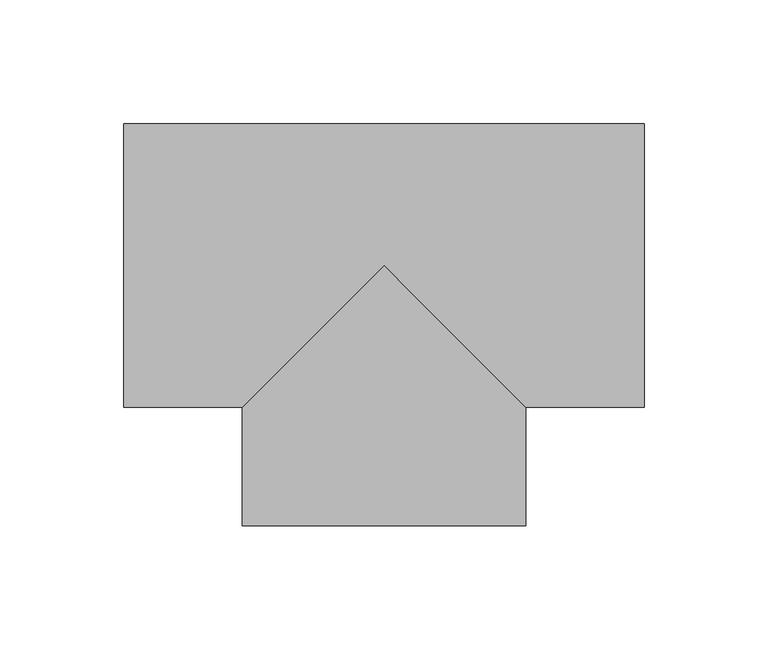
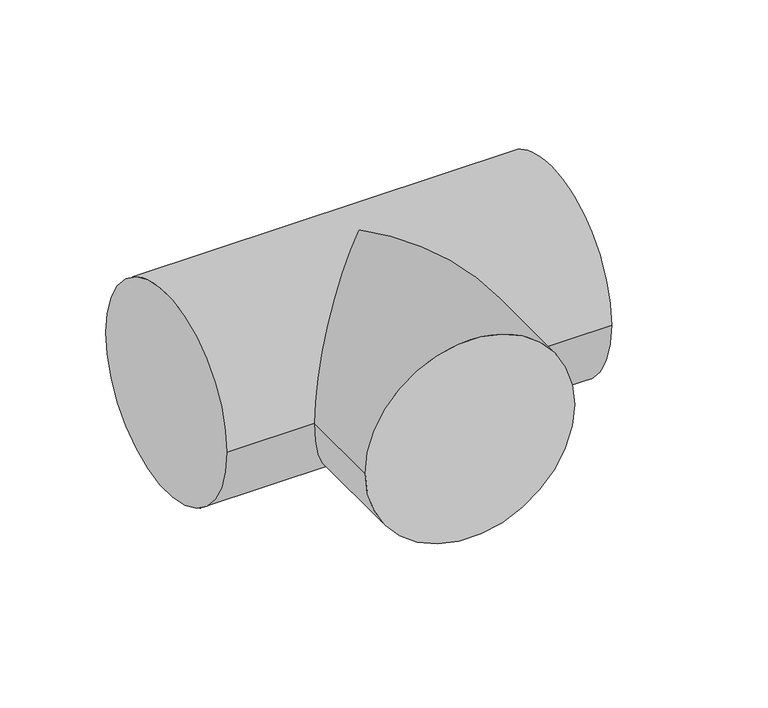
"""IFC4 building model written with IfcOpenShell, lengths in millimetres: pipe fitting geometry, T 形三通 - 常规 : 标准."""

from ifc_helpers import new_model, si_unit, frame, origin, place, context, project, spatial, circle_curve, ellipse_curve, source, transform, mapped, element, save
from ifc_brep_helpers import plane_surface, cylinder_surface, advanced_brep


def pipe_fitting_a8da37af(model_context):
    return source(origin(), model_context, "Body", "AdvancedBrep", [
        advanced_brep(
        [(-105.0, -57.15, 0.0), (-105.0, 57.15, 0.0), (105.0, -57.15, 0.0), (105.0, 57.15, 0.0), (-57.15, -57.15, 0.0), (0.0, 0.0, 57.15), (57.15, -57.15, 0.0), (0.0, 0.0, -57.15), (-57.15, -105.0, 0.0), (57.15, -105.0, 0.0)],
        [
            (0, 1, circle_curve(frame((-105.0, 0.0, 0.0), z_axis=(-1.0, 0.0, 0.0), x_axis=(0.0, 1.0, 0.0)), 57.15)),
            (1, 0, circle_curve(frame((-105.0, 0.0, 0.0), z_axis=(-1.0, 0.0, 0.0), x_axis=(0.0, 1.0, 0.0)), 57.15)),
            (2, 3, circle_curve(frame((105.0, 0.0, 0.0), z_axis=(1.0, 0.0, 0.0), x_axis=(0.0, 1.0, 0.0)), 57.15)),
            (3, 2, circle_curve(frame((105.0, 0.0, 0.0), z_axis=(1.0, 0.0, 0.0), x_axis=(0.0, 1.0, 0.0)), 57.15)),
            (0, 4),
            (4, 5, ellipse_curve(frame((0.0, 0.0, 0.0), z_axis=(-0.707106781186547, 0.7071067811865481, 0.0), x_axis=(-0.707106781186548, -0.707106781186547, 0.0)), 80.8223051, 57.15)),
            (5, 6, ellipse_curve(frame((0.0, 0.0, 0.0), z_axis=(0.707106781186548, 0.7071067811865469, 0.0), x_axis=(-0.707106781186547, 0.707106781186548, 0.0)), 80.8223051, 57.15)),
            (6, 2),
            (3, 1),
            (6, 7, ellipse_curve(frame((0.0, 0.0, 0.0), z_axis=(0.707106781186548, 0.7071067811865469, 0.0), x_axis=(-0.707106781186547, 0.707106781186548, 0.0)), 80.8223051, 57.15)),
            (7, 4, ellipse_curve(frame((0.0, 0.0, 0.0), z_axis=(-0.707106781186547, 0.7071067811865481, 0.0), x_axis=(-0.707106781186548, -0.707106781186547, 0.0)), 80.8223051, 57.15)),
            (8, 9, circle_curve(frame((0.0, -105.0, 0.0), z_axis=(0.0, -1.0, 0.0), x_axis=(1.0, 0.0, 0.0)), 57.15)),
            (9, 8, circle_curve(frame((0.0, -105.0, 0.0), z_axis=(0.0, -1.0, 0.0), x_axis=(1.0, 0.0, 0.0)), 57.15)),
            (9, 6),
            (4, 8),
        ],
        [
            plane_surface(frame((-105.0, 0.0, 0.0), z_axis=(-1.0, 0.0, 0.0), x_axis=(0.0, 0.0, 1.0))),
            plane_surface(frame((105.0, 0.0, 0.0), z_axis=(1.0, 0.0, 0.0), x_axis=(0.0, 0.0, 1.0))),
            cylinder_surface(frame((-105.0, 0.0, 0.0), z_axis=(-1.0, 0.0, 0.0), x_axis=(0.0, 1.0, 0.0)), 57.15),
            plane_surface(frame((0.0, -105.0, 0.0), z_axis=(0.0, -1.0, 0.0), x_axis=(0.0, 0.0, 1.0))),
            cylinder_surface(frame((0.0, 0.0, 0.0), z_axis=(0.0, 1.0, 0.0), x_axis=(1.0, 0.0, 0.0)), 57.15),
        ],
        [
            (0, [[1, 2]]),
            (1, [[3, 4]]),
            (2, [[-1, 5, 6, 7, 8, -4, 9]]),
            (2, [[-2, -9, -3, -8, 10, 11, -5]]),
            (3, [[12, 13]]),
            (4, [[-13, 14, -7, -6, 15]]),
            (4, [[-12, -15, -11, -10, -14]]),
        ],
    ),
    ])


if __name__ == "__main__":
    model = new_model("IFC4")
    model_context = context("Model", 3, world=origin())
    ifc_project = project(units=[si_unit("LENGTHUNIT", "METRE", prefix="MILLI")], contexts=[model_context])
    site = spatial("IfcSite", under=ifc_project)
    building = spatial("IfcBuilding", under=site)
    placement = place(None, origin())
    pipe_fitting_shape = pipe_fitting_a8da37af(model_context)
    element("IfcPipeFitting", 1, ObjectType="T 形三通 - 常规 : 标准", at=placement, inside=building, context=model_context, shape_type="MappedRepresentation", body=[
        mapped(pipe_fitting_shape, transform((0.0, 0.0, 0.0), x_axis=(1.0, 0.0, 0.0), y_axis=(0.0, 1.0, 0.0), z_axis=(0.0, 0.0, 1.0))),
    ])
    save(model, "model.ifc")
